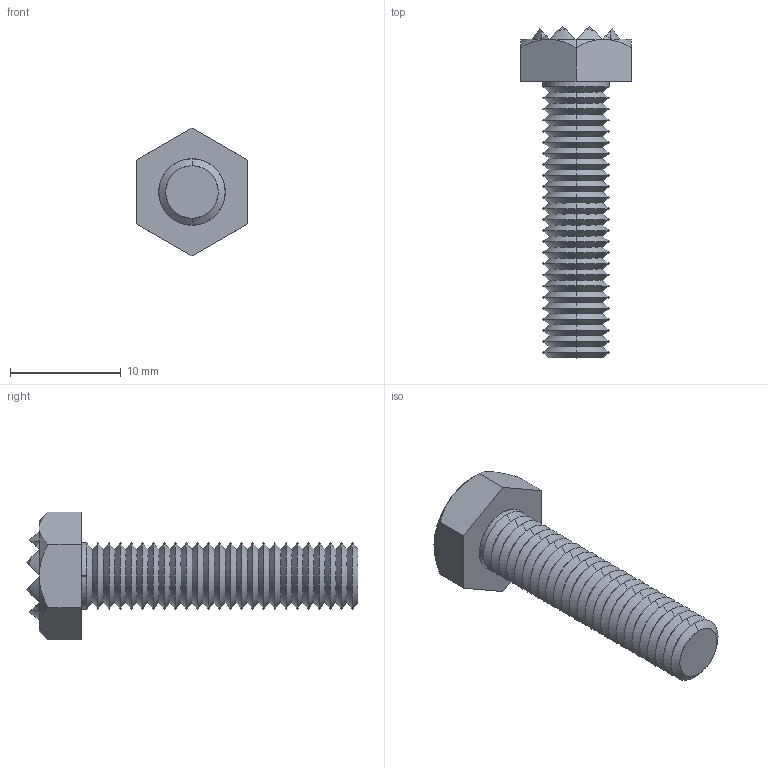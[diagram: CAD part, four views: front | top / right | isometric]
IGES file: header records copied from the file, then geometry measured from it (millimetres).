
Start section: SolidWorks IGES file using analytic representation for surfaces
Global section: file name: C:\Documents and Settings\IANO\Desktop\Temp File\Process pending\NEW\35400_v2\35400_v2_20170704_IGES\35400.W0002.igs; native system: SolidWorks 2009; preprocessor: SolidWorks 2009; author: IANO; date: 170703.082016; units: millimetre
Bounding box: 10 x 30 x 11.55 mm (x, y, z)
Surface area: 984.6 mm2 (no closed solid volume)
Topology: 0 solids, 0 shells, 176 faces, 857 edges, 857 vertices
Faces by surface type: revolution 119, bspline 57
